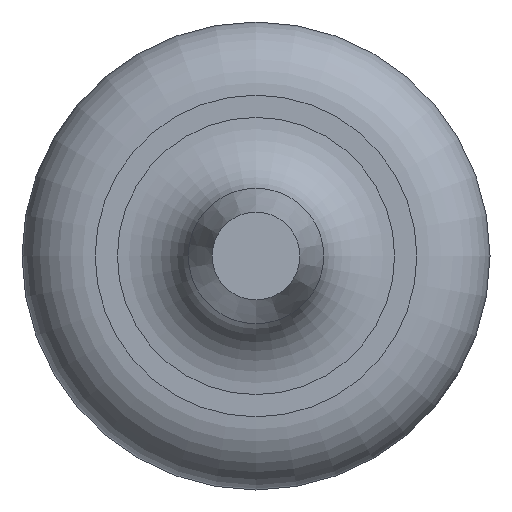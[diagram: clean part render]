
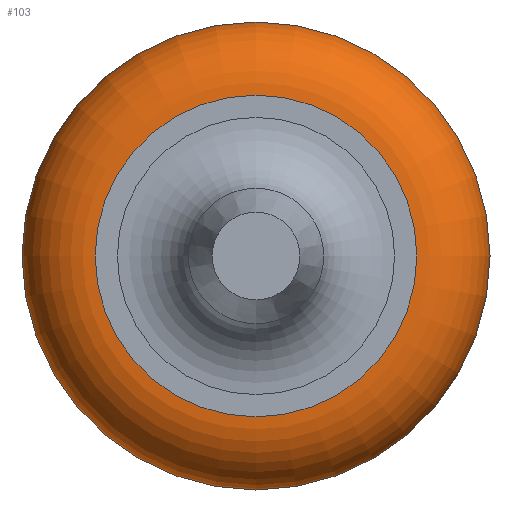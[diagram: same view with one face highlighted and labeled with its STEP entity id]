
A CAD part, front view. The second image highlights one B-rep face of the part: STEP entity #103.
In plain terms, the highlighted toroidal (fillet/blend) face has major radius 1.1 mm and minor radius 0.5 mm.
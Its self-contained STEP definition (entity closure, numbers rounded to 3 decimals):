
#103=ADVANCED_FACE('',(#272,#274),#276,.T.);
#272=FACE_BOUND('',#273,.T.);
#273=EDGE_LOOP('',(#410,#411));
#274=FACE_BOUND('',#275,.T.);
#275=EDGE_LOOP('',(#412,#413));
#276=TOROIDAL_SURFACE('',#277,1.1,0.5);
#277=AXIS2_PLACEMENT_3D('',#278,#279,#280);
#278=CARTESIAN_POINT('',(0.,-4.,0.));
#279=DIRECTION('',(0.,1.,0.));
#280=DIRECTION('',(0.,0.,1.));
#410=ORIENTED_EDGE('',*,*,#468,.F.);
#411=ORIENTED_EDGE('',*,*,#469,.F.);
#412=ORIENTED_EDGE('',*,*,#467,.T.);
#413=ORIENTED_EDGE('',*,*,#466,.T.);
#466=EDGE_CURVE('',#504,#505,#506,.T.);
#467=EDGE_CURVE('',#505,#504,#507,.T.);
#468=EDGE_CURVE('',#508,#509,#510,.T.);
#469=EDGE_CURVE('',#509,#508,#511,.T.);
#504=VERTEX_POINT('',#586);
#505=VERTEX_POINT('',#587);
#506=CIRCLE('',#588,1.1);
#507=CIRCLE('',#592,1.1);
#508=VERTEX_POINT('',#596);
#509=VERTEX_POINT('',#597);
#510=CIRCLE('',#598,1.6);
#511=CIRCLE('',#602,1.6);
#586=CARTESIAN_POINT('',(0.,-4.5,-1.1));
#587=CARTESIAN_POINT('',(0.,-4.5,1.1));
#588=AXIS2_PLACEMENT_3D('',#589,#590,#591);
#589=CARTESIAN_POINT('',(0.,-4.5,0.));
#590=DIRECTION('',(0.,1.,0.));
#591=DIRECTION('',(0.,0.,-1.));
#592=AXIS2_PLACEMENT_3D('',#593,#594,#595);
#593=CARTESIAN_POINT('',(0.,-4.5,0.));
#594=DIRECTION('',(0.,1.,0.));
#595=DIRECTION('',(0.,0.,1.));
#596=CARTESIAN_POINT('',(0.,-4.,-1.6));
#597=CARTESIAN_POINT('',(0.,-4.,1.6));
#598=AXIS2_PLACEMENT_3D('',#599,#600,#601);
#599=CARTESIAN_POINT('',(0.,-4.,0.));
#600=DIRECTION('',(0.,1.,0.));
#601=DIRECTION('',(0.,0.,-1.));
#602=AXIS2_PLACEMENT_3D('',#603,#604,#605);
#603=CARTESIAN_POINT('',(0.,-4.,0.));
#604=DIRECTION('',(0.,1.,0.));
#605=DIRECTION('',(0.,0.,1.));
